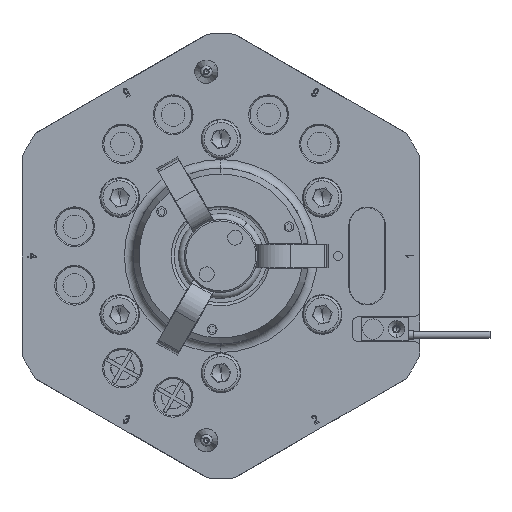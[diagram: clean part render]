
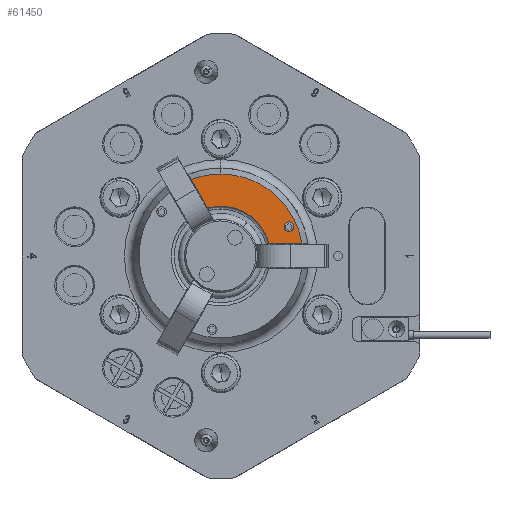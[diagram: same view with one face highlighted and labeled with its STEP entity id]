
A CAD part, front view. The second image highlights one B-rep face of the part: STEP entity #61450.
In plain terms, the highlighted planar face has unit normal (0, -1, 0).
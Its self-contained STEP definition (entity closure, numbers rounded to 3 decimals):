
#1037 = ORIENTED_EDGE ( 'NONE', *, *, #53053, .F. ) ;
#1123 = VECTOR ( 'NONE', #26091, 1000. ) ;
#2570 = DIRECTION ( 'NONE',  ( 0., -1., 0. ) ) ;
#3049 = VERTEX_POINT ( 'NONE', #42258 ) ;
#3262 = VERTEX_POINT ( 'NONE', #38930 ) ;
#3940 = DIRECTION ( 'NONE',  ( 0., 0., -1. ) ) ;
#4367 = AXIS2_PLACEMENT_3D ( 'NONE', #14829, #40034, #5450 ) ;
#4785 = AXIS2_PLACEMENT_3D ( 'NONE', #13226, #2570, #27469 ) ;
#5450 = DIRECTION ( 'NONE',  ( 0., 0., -1. ) ) ;
#7311 = VECTOR ( 'NONE', #7539, 1000. ) ;
#7539 = DIRECTION ( 'NONE',  ( -0.5, 0., 0.866 ) ) ;
#8527 = CIRCLE ( 'NONE', #4367, 1.65 ) ;
#8557 = CIRCLE ( 'NONE', #37457, 1.65 ) ;
#8801 = PLANE ( 'NONE',  #49974 ) ;
#10442 = CARTESIAN_POINT ( 'NONE',  ( 23.249, -33.5, 8.353 ) ) ;
#11842 = ORIENTED_EDGE ( 'NONE', *, *, #44784, .F. ) ;
#13226 = CARTESIAN_POINT ( 'NONE',  ( 0., -33.5, 0. ) ) ;
#13255 = CARTESIAN_POINT ( 'NONE',  ( 0., -33.5, 0. ) ) ;
#14829 = CARTESIAN_POINT ( 'NONE',  ( 23.249, -33.5, 10.003 ) ) ;
#16844 = ORIENTED_EDGE ( 'NONE', *, *, #33375, .T. ) ;
#18489 = DIRECTION ( 'NONE',  ( 0., -1., 0. ) ) ;
#21181 = ORIENTED_EDGE ( 'NONE', *, *, #30647, .F. ) ;
#21536 = CARTESIAN_POINT ( 'NONE',  ( 16.46, -33.5, 4.25 ) ) ;
#22612 = EDGE_LOOP ( 'NONE', ( #11842, #41797 ) ) ;
#23016 = VERTEX_POINT ( 'NONE', #46265 ) ;
#26091 = DIRECTION ( 'NONE',  ( -1., 0., 0. ) ) ;
#26934 = DIRECTION ( 'NONE',  ( 0., -1., 0. ) ) ;
#27040 = AXIS2_PLACEMENT_3D ( 'NONE', #32936, #52643, #28099 ) ;
#27469 = DIRECTION ( 'NONE',  ( 0., 0., -1. ) ) ;
#28099 = DIRECTION ( 'NONE',  ( 0., 0., -1. ) ) ;
#28530 = FACE_BOUND ( 'NONE', #22612, .T. ) ;
#29021 = EDGE_CURVE ( 'NONE', #34677, #3049, #45148, .T. ) ;
#30647 = EDGE_CURVE ( 'NONE', #3049, #42931, #35289, .T. ) ;
#32108 = CARTESIAN_POINT ( 'NONE',  ( -4.549, -33.5, 16.38 ) ) ;
#32936 = CARTESIAN_POINT ( 'NONE',  ( 0., -33.5, 0. ) ) ;
#32970 = DIRECTION ( 'NONE',  ( 0., 0., -1. ) ) ;
#33375 = EDGE_CURVE ( 'NONE', #57704, #23016, #55369, .T. ) ;
#34677 = VERTEX_POINT ( 'NONE', #43863 ) ;
#35289 = CIRCLE ( 'NONE', #27040, 17. ) ;
#36853 = EDGE_LOOP ( 'NONE', ( #43192, #62430, #16844, #1037, #21181 ) ) ;
#37280 = LINE ( 'NONE', #32108, #7311 ) ;
#37457 = AXIS2_PLACEMENT_3D ( 'NONE', #62158, #26934, #56657 ) ;
#38930 = CARTESIAN_POINT ( 'NONE',  ( 23.249, -33.5, 11.653 ) ) ;
#39280 = EDGE_CURVE ( 'NONE', #34677, #57704, #63968, .T. ) ;
#40034 = DIRECTION ( 'NONE',  ( 0., -1., 0. ) ) ;
#41797 = ORIENTED_EDGE ( 'NONE', *, *, #50607, .F. ) ;
#42258 = CARTESIAN_POINT ( 'NONE',  ( 16.46, -33.5, 4.25 ) ) ;
#42931 = VERTEX_POINT ( 'NONE', #51790 ) ;
#43192 = ORIENTED_EDGE ( 'NONE', *, *, #29021, .F. ) ;
#43385 = CARTESIAN_POINT ( 'NONE',  ( 0., -33.5, 0. ) ) ;
#43863 = CARTESIAN_POINT ( 'NONE',  ( 27.674, -33.5, 4.25 ) ) ;
#44326 = AXIS2_PLACEMENT_3D ( 'NONE', #13255, #52683, #32970 ) ;
#44784 = EDGE_CURVE ( 'NONE', #49356, #3262, #8527, .T. ) ;
#45148 = LINE ( 'NONE', #21536, #1123 ) ;
#46265 = CARTESIAN_POINT ( 'NONE',  ( -10.156, -33.5, 26.091 ) ) ;
#49356 = VERTEX_POINT ( 'NONE', #10442 ) ;
#49974 = AXIS2_PLACEMENT_3D ( 'NONE', #43385, #18489, #3940 ) ;
#50284 = CARTESIAN_POINT ( 'NONE',  ( 0., -33.5, 27.998 ) ) ;
#50607 = EDGE_CURVE ( 'NONE', #3262, #49356, #8557, .T. ) ;
#51790 = CARTESIAN_POINT ( 'NONE',  ( -4.549, -33.5, 16.38 ) ) ;
#52643 = DIRECTION ( 'NONE',  ( 0., -1., 0. ) ) ;
#52683 = DIRECTION ( 'NONE',  ( 0., -1., 0. ) ) ;
#53053 = EDGE_CURVE ( 'NONE', #42931, #23016, #37280, .T. ) ;
#55369 = CIRCLE ( 'NONE', #4785, 27.998 ) ;
#56657 = DIRECTION ( 'NONE',  ( 0., 0., -1. ) ) ;
#57704 = VERTEX_POINT ( 'NONE', #50284 ) ;
#57935 = FACE_OUTER_BOUND ( 'NONE', #36853, .T. ) ;
#61450 = ADVANCED_FACE ( 'NONE', ( #28530, #57935 ), #8801, .T. ) ;
#62158 = CARTESIAN_POINT ( 'NONE',  ( 23.249, -33.5, 10.003 ) ) ;
#62430 = ORIENTED_EDGE ( 'NONE', *, *, #39280, .T. ) ;
#63968 = CIRCLE ( 'NONE', #44326, 27.998 ) ;
